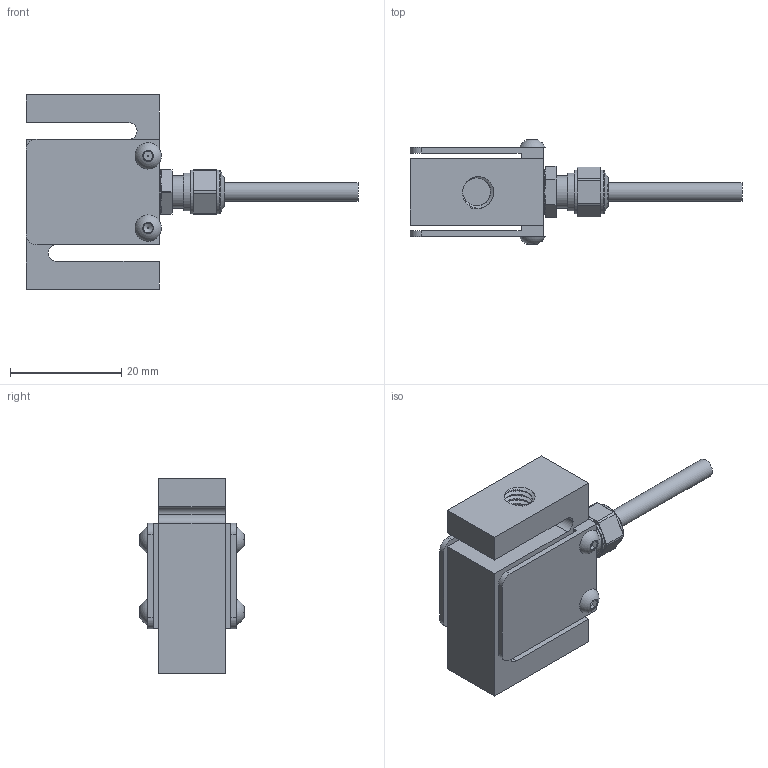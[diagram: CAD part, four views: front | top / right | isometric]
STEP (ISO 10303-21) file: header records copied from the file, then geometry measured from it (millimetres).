
FILE_DESCRIPTION(/* description */ (''),/* implementation_level */ '2;1');
FILE_NAME(/* name */ 'I:/New Datasheets/STEP Models/DBBSMM Body - Space model v3.step',/* time_stamp */ '2018-09-24T15:49:00+01:00',/* author */ ('ollieVUKN3'),/* organization */ (''),/* preprocessor_version */ 'ST-DEVELOPER v17.2',/* originating_system */ 'Autodesk Translation Framework v7.6.0.251',/* authorisation */ '');
FILE_SCHEMA (('AUTOMOTIVE_DESIGN { 1 0 10303 214 3 1 1 }'));
Length unit declared in the file: millimetre
Products named in the file (2): DBBSM Body - Space model; DBBSMM Space model body
Assembly tree (1 placements, depth 2):
  DBBSM Body - Space model
    DBBSMM Space model body
Bounding box: 59.8 x 18.74 x 35 mm (x, y, z)
Volume: 10154.7 mm3; surface area: 7245.4 mm2
Topology: 1 solids, 10 shells, 208 faces, 552 edges, 369 vertices
Faces by surface type: plane 89, cylinder 72, cone 23, torus 12, sphere 8, bspline 4
Full cylindrical faces by diameter (mm): 2.075 x2, 2.49 x4, 2.6 x4, 3.4 x2, 3.6 x1, 3.7 x1, 4.7 x1, 4.773 x1, 4.8 x2, 5.035 x12, 5.93 x1, 6.147 x10, 6.2 x1, 6.38 x1, 6.84 x1, 7.9 x2
Entity records: 9964 total; most frequent: CARTESIAN_POINT 4750, ORIENTED_EDGE 1096, DIRECTION 1075, EDGE_CURVE 548, AXIS2_PLACEMENT_3D 434, VERTEX_POINT 369, EDGE_LOOP 233, CIRCLE 227
